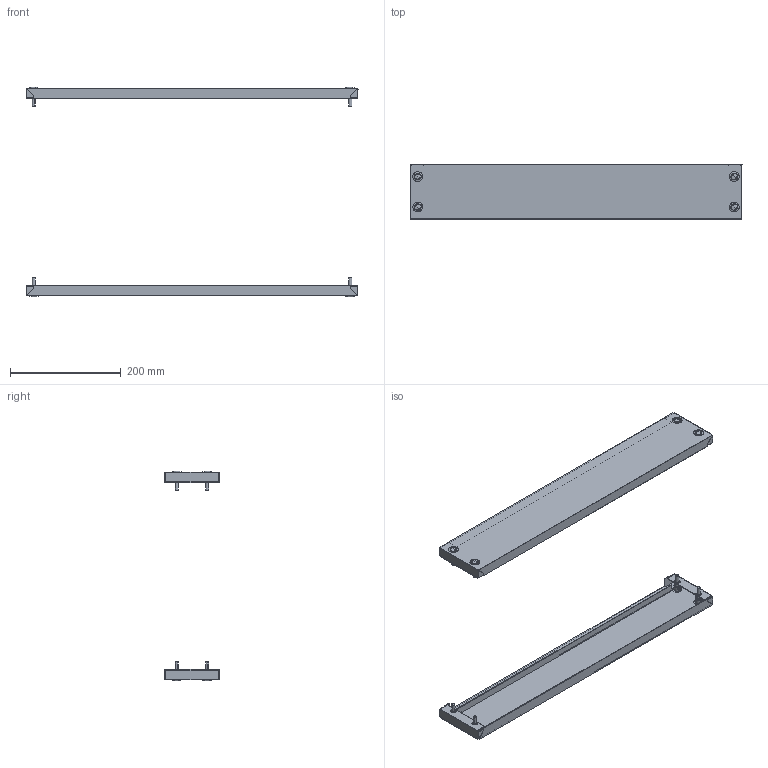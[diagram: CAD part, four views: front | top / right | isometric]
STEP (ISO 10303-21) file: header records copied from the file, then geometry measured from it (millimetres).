
FILE_DESCRIPTION (( 'STEP AP203' ), '1' );
FILE_NAME ('R5FZ6-400.STEP', '2025-06-18T08:37:55', ( '' ), ( '' ), 'SwSTEP 2.0', 'SolidWorks 2022', '' );
FILE_SCHEMA (( 'CONFIG_CONTROL_DESIGN' ));
Length unit declared in the file: millimetre
Products named in the file (5): M6x16 DIN 912 HX cl.4,8 Zinc_stright; 6 DIN 6798 A Zinc; RB.1055.00.00.0 simple_-02 (600); R5FZ6-400; Plug_11.5-13Д18ЧК_-00
Assembly tree (26 placements, depth 2):
  R5FZ6-400
    RB.1055.00.00.0 simple_-02 (600)  x2
    M6x16 DIN 912 HX cl.4,8 Zinc_stright  x8
    6 DIN 6798 A Zinc  x8
    Plug_11.5-13Д18ЧК_-00  x8
Bounding box: 599 x 100.05 x 378.5 mm (x, y, z)
Volume: 294956.8 mm3; surface area: 400063.7 mm2
Topology: 26 solids, 26 shells, 1196 faces, 3456 edges, 2112 vertices
Faces by surface type: plane 700, bspline 208, cylinder 128, cone 96, torus 48, sphere 16
Entity records: 9921 total; most frequent: CARTESIAN_POINT 2626, ORIENTED_EDGE 1352, DIRECTION 1188, EDGE_CURVE 676, VECTOR 448, LINE 448, VERTEX_POINT 444, AXIS2_PLACEMENT_3D 370
